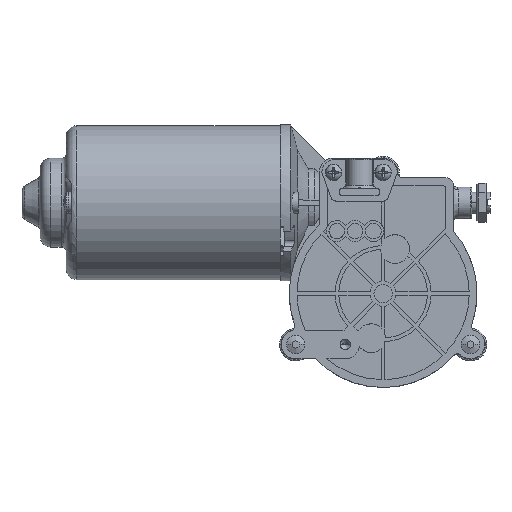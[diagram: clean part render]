
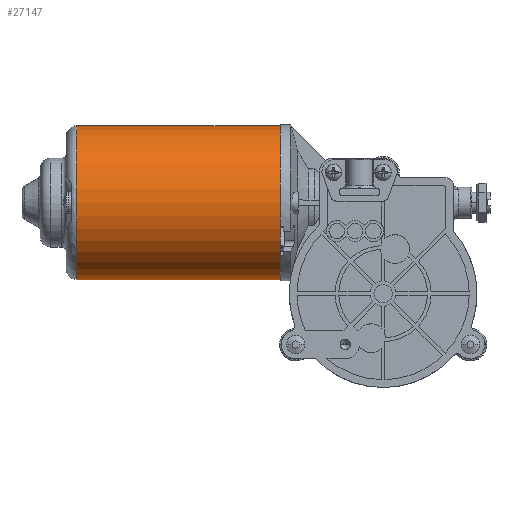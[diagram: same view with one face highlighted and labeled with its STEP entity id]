
A CAD part, top view. The second image highlights one B-rep face of the part: STEP entity #27147.
In plain terms, the highlighted cylindrical face has radius 29.5 mm (diameter 59 mm), a partial arc.
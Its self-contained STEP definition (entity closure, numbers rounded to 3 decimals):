
#25787=CARTESIAN_POINT('',(0.,0.,51.49));
#25788=DIRECTION('',(0.,0.,-1.));
#25789=DIRECTION('',(-1.,0.,0.));
#25790=AXIS2_PLACEMENT_3D('',#25787,#25788,#25789);
#25851=DIRECTION('',(0.,0.,1.));
#25852=VECTOR('',#25851,78.);
#25853=CARTESIAN_POINT('',(-29.5,0.,-26.51));
#25854=LINE('',#25853,#25852);
#25858=DIRECTION('',(0.,0.,1.));
#25859=VECTOR('',#25858,78.);
#25860=CARTESIAN_POINT('',(29.5,0.,-26.51));
#25861=LINE('',#25860,#25859);
#26425=CARTESIAN_POINT('',(0.,0.,-26.51));
#26426=DIRECTION('',(0.,0.,-1.));
#26427=DIRECTION('',(-1.,0.,0.));
#26428=AXIS2_PLACEMENT_3D('',#26425,#26426,#26427);
#26471=CARTESIAN_POINT('',(-29.5,0.,-26.51));
#26472=CARTESIAN_POINT('',(-29.5,0.,51.49));
#26473=VERTEX_POINT('',#26471);
#26474=VERTEX_POINT('',#26472);
#26483=CARTESIAN_POINT('',(29.5,0.,-26.51));
#26484=CARTESIAN_POINT('',(29.5,0.,51.49));
#26485=VERTEX_POINT('',#26483);
#26486=VERTEX_POINT('',#26484);
#27136=CARTESIAN_POINT('',(0.,0.,56.44));
#27137=DIRECTION('',(0.,0.,-1.));
#27138=DIRECTION('',(1.,0.,0.));
#27139=AXIS2_PLACEMENT_3D('',#27136,#27137,#27138);
#27140=CYLINDRICAL_SURFACE('',#27139,29.5);
#27141=ORIENTED_EDGE('',*,*,#26596,.F.);
#27142=ORIENTED_EDGE('',*,*,#26628,.T.);
#27143=ORIENTED_EDGE('',*,*,#26599,.T.);
#27144=ORIENTED_EDGE('',*,*,#26566,.F.);
#27145=EDGE_LOOP('',(#27141,#27142,#27143,#27144));
#27146=FACE_OUTER_BOUND('',#27145,.F.);
#27147=ADVANCED_FACE('',(#27146),#27140,.T.);
#25791=CIRCLE('',#25790,29.5);
#26429=CIRCLE('',#26428,29.5);
#26566=EDGE_CURVE('',#26474,#26486,#25791,.T.);
#26596=EDGE_CURVE('',#26473,#26474,#25854,.T.);
#26599=EDGE_CURVE('',#26485,#26486,#25861,.T.);
#26628=EDGE_CURVE('',#26473,#26485,#26429,.T.);
